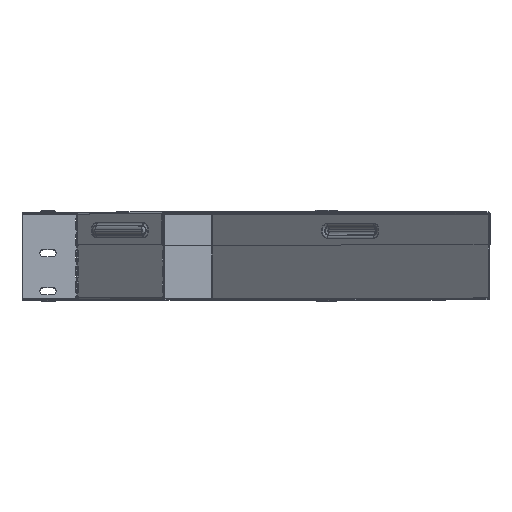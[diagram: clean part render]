
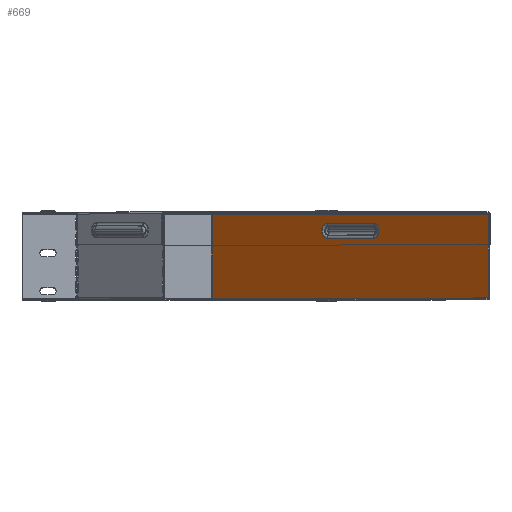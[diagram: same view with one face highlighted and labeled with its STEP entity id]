
A CAD part, top view. The second image highlights one B-rep face of the part: STEP entity #669.
In plain terms, the highlighted planar face has unit normal (-0.707, 0, 0.707).
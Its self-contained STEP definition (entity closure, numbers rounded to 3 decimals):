
#669 = ADVANCED_FACE ( 'NONE', ( #1088, #12087 ), #14995, .T. ) ;
#1088 = FACE_BOUND ( 'NONE', #11930, .T. ) ;
#1379 = DIRECTION ( 'NONE',  ( -0.707, 0., -0.707 ) ) ;
#1429 = CARTESIAN_POINT ( 'NONE',  ( 214.123, 1., 40.255 ) ) ;
#1434 = CARTESIAN_POINT ( 'NONE',  ( 86.934, 70.017, -86.934 ) ) ;
#1477 = AXIS2_PLACEMENT_3D ( 'NONE', #8142, #14321, #6508 ) ;
#1483 = DIRECTION ( 'NONE',  ( -0.707, 0., 0.707 ) ) ;
#1519 = EDGE_CURVE ( 'NONE', #15399, #18654, #10803, .T. ) ;
#2094 = AXIS2_PLACEMENT_3D ( 'NONE', #19393, #1483, #11273 ) ;
#3719 = VECTOR ( 'NONE', #8112, 1000. ) ;
#3865 = CARTESIAN_POINT ( 'NONE',  ( 214.123, 0., 40.255 ) ) ;
#4009 = LINE ( 'NONE', #4119, #10404 ) ;
#4119 = CARTESIAN_POINT ( 'NONE',  ( 214.434, 78.2, 40.566 ) ) ;
#4250 = LINE ( 'NONE', #1434, #11829 ) ;
#4492 = ORIENTED_EDGE ( 'NONE', *, *, #5266, .F. ) ;
#4673 = VERTEX_POINT ( 'NONE', #10141 ) ;
#4739 = EDGE_LOOP ( 'NONE', ( #4492, #10774, #11806, #6681 ) ) ;
#4781 = VECTOR ( 'NONE', #18648, 1000. ) ;
#5148 = LINE ( 'NONE', #8638, #13220 ) ;
#5266 = EDGE_CURVE ( 'NONE', #6074, #15399, #5148, .T. ) ;
#5639 = DIRECTION ( 'NONE',  ( -0.707, 0., -0.707 ) ) ;
#6074 = VERTEX_POINT ( 'NONE', #1429 ) ;
#6508 = DIRECTION ( 'NONE',  ( 0., 1., 0. ) ) ;
#6620 = CARTESIAN_POINT ( 'NONE',  ( -40.255, 0., -214.123 ) ) ;
#6681 = ORIENTED_EDGE ( 'NONE', *, *, #1519, .F. ) ;
#6813 = LINE ( 'NONE', #3865, #10610 ) ;
#7220 = DIRECTION ( 'NONE',  ( 0.707, 0., 0.707 ) ) ;
#7839 = EDGE_CURVE ( 'NONE', #10049, #4673, #7993, .T. ) ;
#7993 = CIRCLE ( 'NONE', #18685, 6.917 ) ;
#8112 = DIRECTION ( 'NONE',  ( 0., 1., 0. ) ) ;
#8142 = CARTESIAN_POINT ( 'NONE',  ( 108.148, 63.1, -65.721 ) ) ;
#8219 = DIRECTION ( 'NONE',  ( 0., 1., 0. ) ) ;
#8257 = EDGE_CURVE ( 'NONE', #13283, #10049, #4250, .T. ) ;
#8507 = EDGE_CURVE ( 'NONE', #6074, #9809, #6813, .T. ) ;
#8638 = CARTESIAN_POINT ( 'NONE',  ( 214.434, 1., 40.566 ) ) ;
#9101 = EDGE_CURVE ( 'NONE', #18654, #9809, #4009, .T. ) ;
#9142 = ORIENTED_EDGE ( 'NONE', *, *, #15984, .F. ) ;
#9323 = CARTESIAN_POINT ( 'NONE',  ( 65.721, 63.1, -108.148 ) ) ;
#9751 = ORIENTED_EDGE ( 'NONE', *, *, #13458, .F. ) ;
#9809 = VERTEX_POINT ( 'NONE', #10897 ) ;
#10049 = VERTEX_POINT ( 'NONE', #12761 ) ;
#10141 = CARTESIAN_POINT ( 'NONE',  ( 65.721, 56.183, -108.148 ) ) ;
#10404 = VECTOR ( 'NONE', #7220, 1000. ) ;
#10461 = LINE ( 'NONE', #15421, #4781 ) ;
#10523 = CIRCLE ( 'NONE', #1477, 6.917 ) ;
#10610 = VECTOR ( 'NONE', #8219, 1000. ) ;
#10774 = ORIENTED_EDGE ( 'NONE', *, *, #8507, .T. ) ;
#10803 = LINE ( 'NONE', #6620, #3719 ) ;
#10897 = CARTESIAN_POINT ( 'NONE',  ( 214.123, 78.2, 40.255 ) ) ;
#11273 = DIRECTION ( 'NONE',  ( 0.707, 0., 0.707 ) ) ;
#11314 = CARTESIAN_POINT ( 'NONE',  ( -40.255, 78.2, -214.123 ) ) ;
#11806 = ORIENTED_EDGE ( 'NONE', *, *, #9101, .F. ) ;
#11829 = VECTOR ( 'NONE', #1379, 1000. ) ;
#11930 = EDGE_LOOP ( 'NONE', ( #17352, #19121, #9142, #9751 ) ) ;
#12087 = FACE_OUTER_BOUND ( 'NONE', #4739, .T. ) ;
#12344 = CARTESIAN_POINT ( 'NONE',  ( -40.255, 1., -214.123 ) ) ;
#12761 = CARTESIAN_POINT ( 'NONE',  ( 65.721, 70.017, -108.148 ) ) ;
#13220 = VECTOR ( 'NONE', #5639, 1000. ) ;
#13243 = CARTESIAN_POINT ( 'NONE',  ( 108.148, 56.183, -65.721 ) ) ;
#13283 = VERTEX_POINT ( 'NONE', #16327 ) ;
#13458 = EDGE_CURVE ( 'NONE', #4673, #18573, #10461, .T. ) ;
#14321 = DIRECTION ( 'NONE',  ( -0.707, 0., 0.707 ) ) ;
#14995 = PLANE ( 'NONE',  #2094 ) ;
#15399 = VERTEX_POINT ( 'NONE', #12344 ) ;
#15421 = CARTESIAN_POINT ( 'NONE',  ( 86.934, 56.183, -86.934 ) ) ;
#15984 = EDGE_CURVE ( 'NONE', #18573, #13283, #10523, .T. ) ;
#16327 = CARTESIAN_POINT ( 'NONE',  ( 108.148, 70.017, -65.721 ) ) ;
#17030 = DIRECTION ( 'NONE',  ( 0., 1., 0. ) ) ;
#17352 = ORIENTED_EDGE ( 'NONE', *, *, #7839, .F. ) ;
#18332 = DIRECTION ( 'NONE',  ( -0.707, 0., 0.707 ) ) ;
#18573 = VERTEX_POINT ( 'NONE', #13243 ) ;
#18648 = DIRECTION ( 'NONE',  ( 0.707, 0., 0.707 ) ) ;
#18654 = VERTEX_POINT ( 'NONE', #11314 ) ;
#18685 = AXIS2_PLACEMENT_3D ( 'NONE', #9323, #18332, #17030 ) ;
#19121 = ORIENTED_EDGE ( 'NONE', *, *, #8257, .F. ) ;
#19393 = CARTESIAN_POINT ( 'NONE',  ( 86.934, 0., -86.934 ) ) ;
